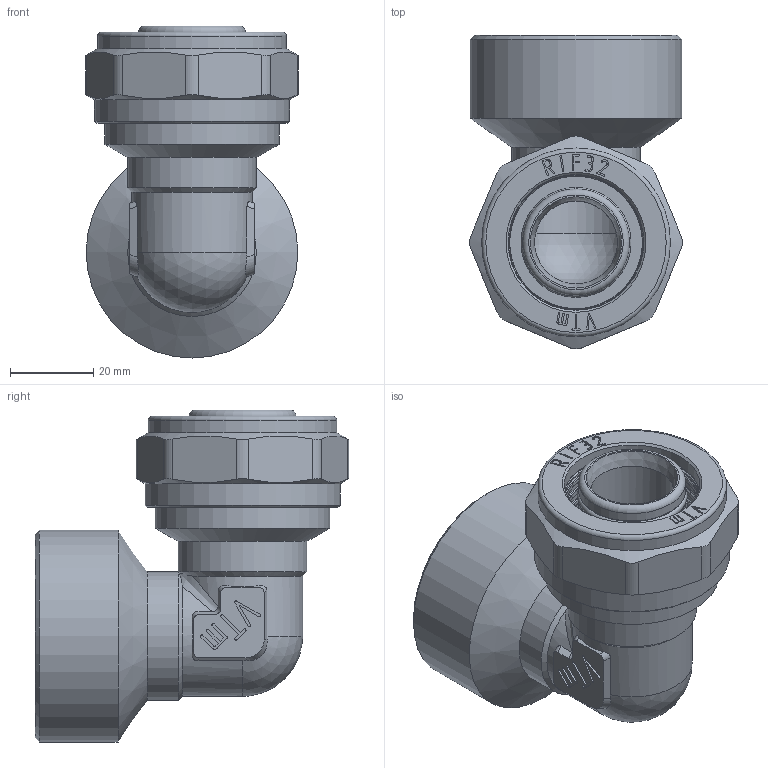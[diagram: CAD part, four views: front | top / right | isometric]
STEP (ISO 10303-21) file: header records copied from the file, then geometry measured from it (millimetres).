
FILE_DESCRIPTION(('STEP AP203'), '1');
FILE_NAME('VTm.352.N.003207', '', ('UNSPECIFIED'), ('UNSPECIFIED'), 'C3D Converter', 'C3D Toolkit', '');
FILE_SCHEMA(('CONFIG_CONTROL_DESIGN'));
Length unit declared in the file: millimetre
Products named in the file (1): ВР.302635.106.000 СБ
Bounding box: 51.3 x 75.65 x 80 mm (x, y, z)
Volume: 67187.8 mm3; surface area: 33850.3 mm2
Topology: 1 solids, 1 shells, 467 faces, 1282 edges, 843 vertices
Faces by surface type: extrusion 207, plane 153, cylinder 55, torus 29, cone 19, bspline 2, sphere 2
Full cylindrical faces by diameter (mm): 20 x1, 22.8 x4, 24.5 x1, 25.8 x5, 26 x1, 31 x2, 32.1 x1, 32.2 x1, 32.7 x1, 38.953 x1, 40.376 x1, 42 x1, 45.5 x1, 47 x1, 51 x1
Entity records: 17375 total; most frequent: CARTESIAN_POINT 6726, ORIENTED_EDGE 2454, DIRECTION 1512, EDGE_CURVE 1227, VERTEX_POINT 842, VECTOR 772, B_SPLINE_CURVE_WITH_KNOTS 722, LINE 565
